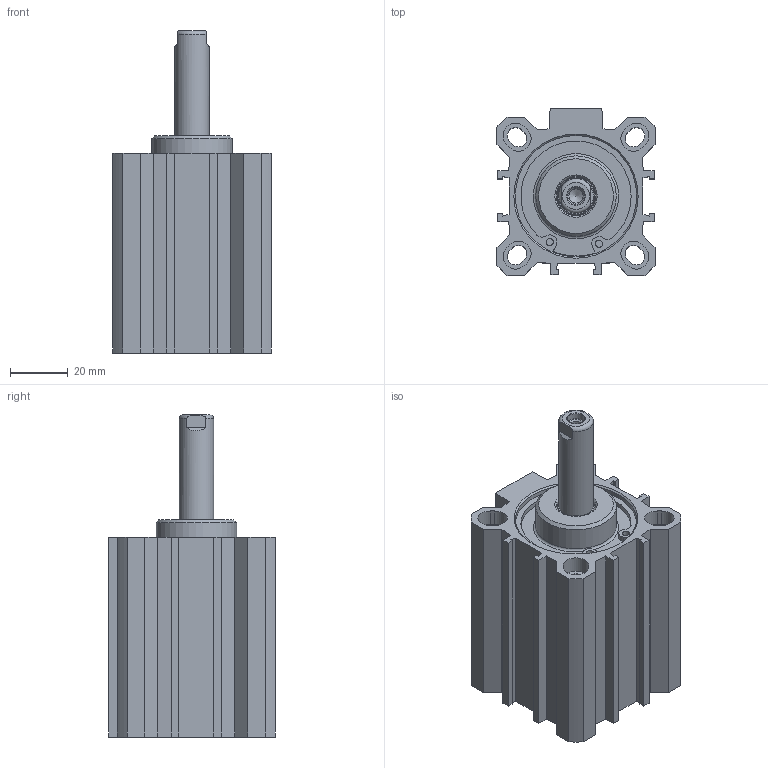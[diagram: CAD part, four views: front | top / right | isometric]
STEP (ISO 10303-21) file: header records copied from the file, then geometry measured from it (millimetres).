
FILE_DESCRIPTION(/* description */ ('Unknown'),/* implementation_level */ '2;1');
FILE_NAME(/* name */ 'FENV 40_30',/* time_stamp */ '2026-05-12T07:21:50+02:00',/* author */ ('Unknown'),/* organization */ ('Unknown'),/* preprocessor_version */ 'ST-DEVELOPER v18.102',/* originating_system */ 'Solid Edge',/* authorisation */ 'Unknown');
FILE_SCHEMA (('AUTOMOTIVE_DESIGN {1 0 10303 214 3 1 1}'));
Length unit declared in the file: millimetre
Products named in the file (5): FENV 40_30; Kit_1; Profilrohr; Kit_2; Kolbenstange
Assembly tree (4 placements, depth 2):
  FENV 40_30
    Kit_1
    Profilrohr
    Kit_2
    Kolbenstange
Bounding box: 55 x 58 x 112 mm (x, y, z)
Volume: 135064.5 mm3; surface area: 56420.8 mm2
Topology: 4 solids, 5 shells, 241 faces, 596 edges, 385 vertices
Faces by surface type: plane 130, cylinder 72, cone 26, torus 13
Full cylindrical faces by diameter (mm): 2.25 x2, 2.5 x4, 4.917 x2, 6.25 x1, 8.566 x4, 12 x2, 12.54 x1, 13.7 x1, 14 x1, 16.32 x1, 16.5 x1, 27.9 x1, 28 x1, 40 x2, 41.7 x4, 42.2 x2, 44.7 x2
Entity records: 8550 total; most frequent: CARTESIAN_POINT 1260, DIRECTION 1168, ORIENTED_EDGE 1022, EDGE_CURVE 511, AXIS2_PLACEMENT_3D 425, VERTEX_POINT 368, FACE_BOUND 347, EDGE_LOOP 346
